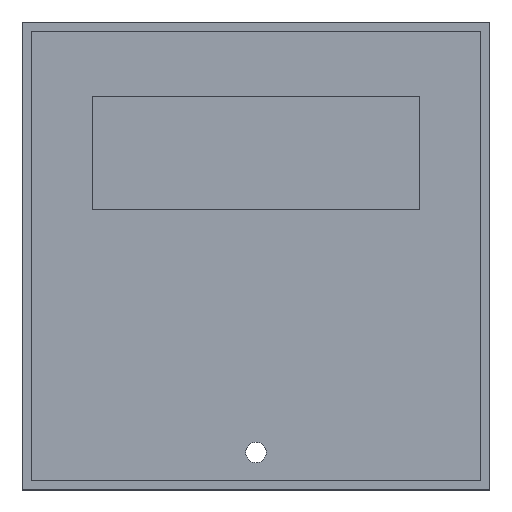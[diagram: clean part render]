
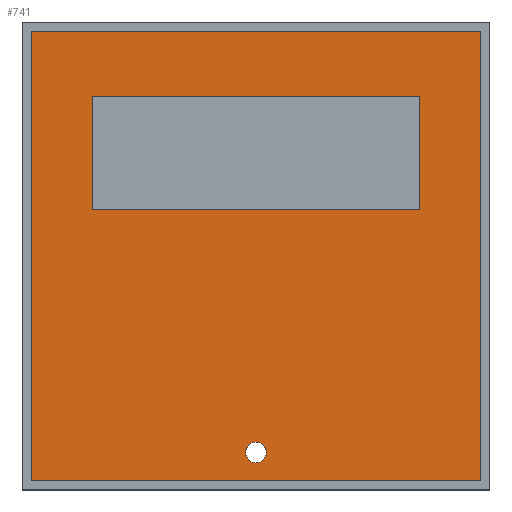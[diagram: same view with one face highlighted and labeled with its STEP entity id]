
A CAD part, top view. The second image highlights one B-rep face of the part: STEP entity #741.
In plain terms, the highlighted planar face has unit normal (0, 0, 1).
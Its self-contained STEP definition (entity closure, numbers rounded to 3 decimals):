
#283 = PLANE('',#284);
#284 = AXIS2_PLACEMENT_3D('',#285,#286,#287);
#285 = CARTESIAN_POINT('',(2.,2.,8.));
#286 = DIRECTION('',(1.,0.,0.));
#287 = DIRECTION('',(0.,0.,1.));
#311 = PLANE('',#312);
#312 = AXIS2_PLACEMENT_3D('',#313,#314,#315);
#313 = CARTESIAN_POINT('',(2.,98.,8.));
#314 = DIRECTION('',(0.,1.,0.));
#315 = DIRECTION('',(0.,0.,1.));
#339 = PLANE('',#340);
#340 = AXIS2_PLACEMENT_3D('',#341,#342,#343);
#341 = CARTESIAN_POINT('',(98.,2.,8.));
#342 = DIRECTION('',(1.,0.,0.));
#343 = DIRECTION('',(0.,0.,1.));
#365 = PLANE('',#366);
#366 = AXIS2_PLACEMENT_3D('',#367,#368,#369);
#367 = CARTESIAN_POINT('',(2.,2.,8.));
#368 = DIRECTION('',(0.,1.,0.));
#369 = DIRECTION('',(0.,0.,1.));
#472 = CYLINDRICAL_SURFACE('',#473,2.2);
#473 = AXIS2_PLACEMENT_3D('',#474,#475,#476);
#474 = CARTESIAN_POINT('',(50.,8.,-86.));
#475 = DIRECTION('',(-0.,-0.,-1.));
#476 = DIRECTION('',(1.,0.,0.));
#495 = VERTEX_POINT('',#496);
#496 = CARTESIAN_POINT('',(2.,2.,14.));
#519 = VERTEX_POINT('',#520);
#520 = CARTESIAN_POINT('',(2.,98.,14.));
#541 = EDGE_CURVE('',#495,#519,#542,.T.);
#542 = SURFACE_CURVE('',#543,(#547,#554),.PCURVE_S1.);
#543 = LINE('',#544,#545);
#544 = CARTESIAN_POINT('',(2.,2.,14.));
#545 = VECTOR('',#546,1.);
#546 = DIRECTION('',(0.,1.,0.));
#547 = PCURVE('',#283,#548);
#548 = DEFINITIONAL_REPRESENTATION('',(#549),#553);
#549 = LINE('',#550,#551);
#550 = CARTESIAN_POINT('',(6.,0.));
#551 = VECTOR('',#552,1.);
#552 = DIRECTION('',(0.,-1.));
#553 = ( GEOMETRIC_REPRESENTATION_CONTEXT(2) 
PARAMETRIC_REPRESENTATION_CONTEXT() REPRESENTATION_CONTEXT('2D SPACE',''
  ) );
#554 = PCURVE('',#555,#560);
#555 = PLANE('',#556);
#556 = AXIS2_PLACEMENT_3D('',#557,#558,#559);
#557 = CARTESIAN_POINT('',(2.,2.,14.));
#558 = DIRECTION('',(0.,0.,1.));
#559 = DIRECTION('',(1.,0.,0.));
#560 = DEFINITIONAL_REPRESENTATION('',(#561),#565);
#561 = LINE('',#562,#563);
#562 = CARTESIAN_POINT('',(0.,0.));
#563 = VECTOR('',#564,1.);
#564 = DIRECTION('',(0.,1.));
#565 = ( GEOMETRIC_REPRESENTATION_CONTEXT(2) 
PARAMETRIC_REPRESENTATION_CONTEXT() REPRESENTATION_CONTEXT('2D SPACE',''
  ) );
#572 = EDGE_CURVE('',#495,#573,#575,.T.);
#573 = VERTEX_POINT('',#574);
#574 = CARTESIAN_POINT('',(98.,2.,14.));
#575 = SURFACE_CURVE('',#576,(#580,#587),.PCURVE_S1.);
#576 = LINE('',#577,#578);
#577 = CARTESIAN_POINT('',(2.,2.,14.));
#578 = VECTOR('',#579,1.);
#579 = DIRECTION('',(1.,0.,0.));
#580 = PCURVE('',#365,#581);
#581 = DEFINITIONAL_REPRESENTATION('',(#582),#586);
#582 = LINE('',#583,#584);
#583 = CARTESIAN_POINT('',(6.,0.));
#584 = VECTOR('',#585,1.);
#585 = DIRECTION('',(0.,1.));
#586 = ( GEOMETRIC_REPRESENTATION_CONTEXT(2) 
PARAMETRIC_REPRESENTATION_CONTEXT() REPRESENTATION_CONTEXT('2D SPACE',''
  ) );
#587 = PCURVE('',#555,#588);
#588 = DEFINITIONAL_REPRESENTATION('',(#589),#593);
#589 = LINE('',#590,#591);
#590 = CARTESIAN_POINT('',(0.,0.));
#591 = VECTOR('',#592,1.);
#592 = DIRECTION('',(1.,0.));
#593 = ( GEOMETRIC_REPRESENTATION_CONTEXT(2) 
PARAMETRIC_REPRESENTATION_CONTEXT() REPRESENTATION_CONTEXT('2D SPACE',''
  ) );
#622 = VERTEX_POINT('',#623);
#623 = CARTESIAN_POINT('',(98.,98.,14.));
#644 = EDGE_CURVE('',#573,#622,#645,.T.);
#645 = SURFACE_CURVE('',#646,(#650,#657),.PCURVE_S1.);
#646 = LINE('',#647,#648);
#647 = CARTESIAN_POINT('',(98.,2.,14.));
#648 = VECTOR('',#649,1.);
#649 = DIRECTION('',(0.,1.,0.));
#650 = PCURVE('',#339,#651);
#651 = DEFINITIONAL_REPRESENTATION('',(#652),#656);
#652 = LINE('',#653,#654);
#653 = CARTESIAN_POINT('',(6.,0.));
#654 = VECTOR('',#655,1.);
#655 = DIRECTION('',(0.,-1.));
#656 = ( GEOMETRIC_REPRESENTATION_CONTEXT(2) 
PARAMETRIC_REPRESENTATION_CONTEXT() REPRESENTATION_CONTEXT('2D SPACE',''
  ) );
#657 = PCURVE('',#555,#658);
#658 = DEFINITIONAL_REPRESENTATION('',(#659),#663);
#659 = LINE('',#660,#661);
#660 = CARTESIAN_POINT('',(96.,0.));
#661 = VECTOR('',#662,1.);
#662 = DIRECTION('',(0.,1.));
#663 = ( GEOMETRIC_REPRESENTATION_CONTEXT(2) 
PARAMETRIC_REPRESENTATION_CONTEXT() REPRESENTATION_CONTEXT('2D SPACE',''
  ) );
#670 = EDGE_CURVE('',#519,#622,#671,.T.);
#671 = SURFACE_CURVE('',#672,(#676,#683),.PCURVE_S1.);
#672 = LINE('',#673,#674);
#673 = CARTESIAN_POINT('',(2.,98.,14.));
#674 = VECTOR('',#675,1.);
#675 = DIRECTION('',(1.,0.,0.));
#676 = PCURVE('',#311,#677);
#677 = DEFINITIONAL_REPRESENTATION('',(#678),#682);
#678 = LINE('',#679,#680);
#679 = CARTESIAN_POINT('',(6.,0.));
#680 = VECTOR('',#681,1.);
#681 = DIRECTION('',(0.,1.));
#682 = ( GEOMETRIC_REPRESENTATION_CONTEXT(2) 
PARAMETRIC_REPRESENTATION_CONTEXT() REPRESENTATION_CONTEXT('2D SPACE',''
  ) );
#683 = PCURVE('',#555,#684);
#684 = DEFINITIONAL_REPRESENTATION('',(#685),#689);
#685 = LINE('',#686,#687);
#686 = CARTESIAN_POINT('',(0.,96.));
#687 = VECTOR('',#688,1.);
#688 = DIRECTION('',(1.,0.));
#689 = ( GEOMETRIC_REPRESENTATION_CONTEXT(2) 
PARAMETRIC_REPRESENTATION_CONTEXT() REPRESENTATION_CONTEXT('2D SPACE',''
  ) );
#697 = VERTEX_POINT('',#698);
#698 = CARTESIAN_POINT('',(52.2,8.,14.));
#719 = EDGE_CURVE('',#697,#697,#720,.T.);
#720 = SURFACE_CURVE('',#721,(#726,#733),.PCURVE_S1.);
#721 = CIRCLE('',#722,2.2);
#722 = AXIS2_PLACEMENT_3D('',#723,#724,#725);
#723 = CARTESIAN_POINT('',(50.,8.,14.));
#724 = DIRECTION('',(0.,0.,1.));
#725 = DIRECTION('',(1.,0.,-0.));
#726 = PCURVE('',#472,#727);
#727 = DEFINITIONAL_REPRESENTATION('',(#728),#732);
#728 = LINE('',#729,#730);
#729 = CARTESIAN_POINT('',(-0.,-100.));
#730 = VECTOR('',#731,1.);
#731 = DIRECTION('',(-1.,-0.));
#732 = ( GEOMETRIC_REPRESENTATION_CONTEXT(2) 
PARAMETRIC_REPRESENTATION_CONTEXT() REPRESENTATION_CONTEXT('2D SPACE',''
  ) );
#733 = PCURVE('',#555,#734);
#734 = DEFINITIONAL_REPRESENTATION('',(#735),#739);
#735 = CIRCLE('',#736,2.2);
#736 = AXIS2_PLACEMENT_2D('',#737,#738);
#737 = CARTESIAN_POINT('',(48.,6.));
#738 = DIRECTION('',(1.,0.));
#739 = ( GEOMETRIC_REPRESENTATION_CONTEXT(2) 
PARAMETRIC_REPRESENTATION_CONTEXT() REPRESENTATION_CONTEXT('2D SPACE',''
  ) );
#741 = ADVANCED_FACE('',(#742,#748,#751),#555,.T.);
#742 = FACE_BOUND('',#743,.T.);
#743 = EDGE_LOOP('',(#744,#745,#746,#747));
#744 = ORIENTED_EDGE('',*,*,#541,.F.);
#745 = ORIENTED_EDGE('',*,*,#572,.T.);
#746 = ORIENTED_EDGE('',*,*,#644,.T.);
#747 = ORIENTED_EDGE('',*,*,#670,.F.);
#748 = FACE_BOUND('',#749,.T.);
#749 = EDGE_LOOP('',(#750));
#750 = ORIENTED_EDGE('',*,*,#719,.F.);
#751 = FACE_BOUND('',#752,.T.);
#752 = EDGE_LOOP('',(#753,#783,#811,#839));
#753 = ORIENTED_EDGE('',*,*,#754,.F.);
#754 = EDGE_CURVE('',#755,#757,#759,.T.);
#755 = VERTEX_POINT('',#756);
#756 = CARTESIAN_POINT('',(15.,60.,14.));
#757 = VERTEX_POINT('',#758);
#758 = CARTESIAN_POINT('',(85.,60.,14.));
#759 = SURFACE_CURVE('',#760,(#764,#771),.PCURVE_S1.);
#760 = LINE('',#761,#762);
#761 = CARTESIAN_POINT('',(15.,60.,14.));
#762 = VECTOR('',#763,1.);
#763 = DIRECTION('',(1.,0.,0.));
#764 = PCURVE('',#555,#765);
#765 = DEFINITIONAL_REPRESENTATION('',(#766),#770);
#766 = LINE('',#767,#768);
#767 = CARTESIAN_POINT('',(13.,58.));
#768 = VECTOR('',#769,1.);
#769 = DIRECTION('',(1.,0.));
#770 = ( GEOMETRIC_REPRESENTATION_CONTEXT(2) 
PARAMETRIC_REPRESENTATION_CONTEXT() REPRESENTATION_CONTEXT('2D SPACE',''
  ) );
#771 = PCURVE('',#772,#777);
#772 = PLANE('',#773);
#773 = AXIS2_PLACEMENT_3D('',#774,#775,#776);
#774 = CARTESIAN_POINT('',(15.,60.,14.));
#775 = DIRECTION('',(0.,-1.,0.));
#776 = DIRECTION('',(1.,0.,0.));
#777 = DEFINITIONAL_REPRESENTATION('',(#778),#782);
#778 = LINE('',#779,#780);
#779 = CARTESIAN_POINT('',(0.,0.));
#780 = VECTOR('',#781,1.);
#781 = DIRECTION('',(1.,0.));
#782 = ( GEOMETRIC_REPRESENTATION_CONTEXT(2) 
PARAMETRIC_REPRESENTATION_CONTEXT() REPRESENTATION_CONTEXT('2D SPACE',''
  ) );
#783 = ORIENTED_EDGE('',*,*,#784,.F.);
#784 = EDGE_CURVE('',#785,#755,#787,.T.);
#785 = VERTEX_POINT('',#786);
#786 = CARTESIAN_POINT('',(15.,84.,14.));
#787 = SURFACE_CURVE('',#788,(#792,#799),.PCURVE_S1.);
#788 = LINE('',#789,#790);
#789 = CARTESIAN_POINT('',(15.,84.,14.));
#790 = VECTOR('',#791,1.);
#791 = DIRECTION('',(0.,-1.,0.));
#792 = PCURVE('',#555,#793);
#793 = DEFINITIONAL_REPRESENTATION('',(#794),#798);
#794 = LINE('',#795,#796);
#795 = CARTESIAN_POINT('',(13.,82.));
#796 = VECTOR('',#797,1.);
#797 = DIRECTION('',(0.,-1.));
#798 = ( GEOMETRIC_REPRESENTATION_CONTEXT(2) 
PARAMETRIC_REPRESENTATION_CONTEXT() REPRESENTATION_CONTEXT('2D SPACE',''
  ) );
#799 = PCURVE('',#800,#805);
#800 = PLANE('',#801);
#801 = AXIS2_PLACEMENT_3D('',#802,#803,#804);
#802 = CARTESIAN_POINT('',(15.,84.,14.));
#803 = DIRECTION('',(-1.,0.,0.));
#804 = DIRECTION('',(0.,-1.,0.));
#805 = DEFINITIONAL_REPRESENTATION('',(#806),#810);
#806 = LINE('',#807,#808);
#807 = CARTESIAN_POINT('',(0.,0.));
#808 = VECTOR('',#809,1.);
#809 = DIRECTION('',(1.,0.));
#810 = ( GEOMETRIC_REPRESENTATION_CONTEXT(2) 
PARAMETRIC_REPRESENTATION_CONTEXT() REPRESENTATION_CONTEXT('2D SPACE',''
  ) );
#811 = ORIENTED_EDGE('',*,*,#812,.F.);
#812 = EDGE_CURVE('',#813,#785,#815,.T.);
#813 = VERTEX_POINT('',#814);
#814 = CARTESIAN_POINT('',(85.,84.,14.));
#815 = SURFACE_CURVE('',#816,(#820,#827),.PCURVE_S1.);
#816 = LINE('',#817,#818);
#817 = CARTESIAN_POINT('',(85.,84.,14.));
#818 = VECTOR('',#819,1.);
#819 = DIRECTION('',(-1.,0.,0.));
#820 = PCURVE('',#555,#821);
#821 = DEFINITIONAL_REPRESENTATION('',(#822),#826);
#822 = LINE('',#823,#824);
#823 = CARTESIAN_POINT('',(83.,82.));
#824 = VECTOR('',#825,1.);
#825 = DIRECTION('',(-1.,0.));
#826 = ( GEOMETRIC_REPRESENTATION_CONTEXT(2) 
PARAMETRIC_REPRESENTATION_CONTEXT() REPRESENTATION_CONTEXT('2D SPACE',''
  ) );
#827 = PCURVE('',#828,#833);
#828 = PLANE('',#829);
#829 = AXIS2_PLACEMENT_3D('',#830,#831,#832);
#830 = CARTESIAN_POINT('',(85.,84.,14.));
#831 = DIRECTION('',(0.,1.,-0.));
#832 = DIRECTION('',(-1.,0.,0.));
#833 = DEFINITIONAL_REPRESENTATION('',(#834),#838);
#834 = LINE('',#835,#836);
#835 = CARTESIAN_POINT('',(0.,0.));
#836 = VECTOR('',#837,1.);
#837 = DIRECTION('',(1.,0.));
#838 = ( GEOMETRIC_REPRESENTATION_CONTEXT(2) 
PARAMETRIC_REPRESENTATION_CONTEXT() REPRESENTATION_CONTEXT('2D SPACE',''
  ) );
#839 = ORIENTED_EDGE('',*,*,#840,.F.);
#840 = EDGE_CURVE('',#757,#813,#841,.T.);
#841 = SURFACE_CURVE('',#842,(#846,#853),.PCURVE_S1.);
#842 = LINE('',#843,#844);
#843 = CARTESIAN_POINT('',(85.,60.,14.));
#844 = VECTOR('',#845,1.);
#845 = DIRECTION('',(0.,1.,0.));
#846 = PCURVE('',#555,#847);
#847 = DEFINITIONAL_REPRESENTATION('',(#848),#852);
#848 = LINE('',#849,#850);
#849 = CARTESIAN_POINT('',(83.,58.));
#850 = VECTOR('',#851,1.);
#851 = DIRECTION('',(0.,1.));
#852 = ( GEOMETRIC_REPRESENTATION_CONTEXT(2) 
PARAMETRIC_REPRESENTATION_CONTEXT() REPRESENTATION_CONTEXT('2D SPACE',''
  ) );
#853 = PCURVE('',#854,#859);
#854 = PLANE('',#855);
#855 = AXIS2_PLACEMENT_3D('',#856,#857,#858);
#856 = CARTESIAN_POINT('',(85.,60.,14.));
#857 = DIRECTION('',(1.,0.,0.));
#858 = DIRECTION('',(-0.,1.,0.));
#859 = DEFINITIONAL_REPRESENTATION('',(#860),#864);
#860 = LINE('',#861,#862);
#861 = CARTESIAN_POINT('',(0.,0.));
#862 = VECTOR('',#863,1.);
#863 = DIRECTION('',(1.,0.));
#864 = ( GEOMETRIC_REPRESENTATION_CONTEXT(2) 
PARAMETRIC_REPRESENTATION_CONTEXT() REPRESENTATION_CONTEXT('2D SPACE',''
  ) );
